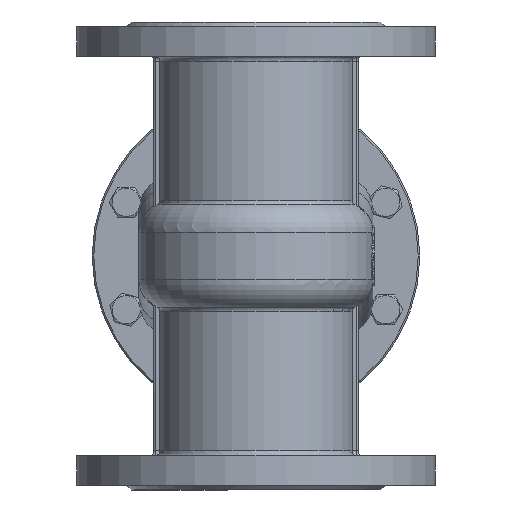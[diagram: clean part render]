
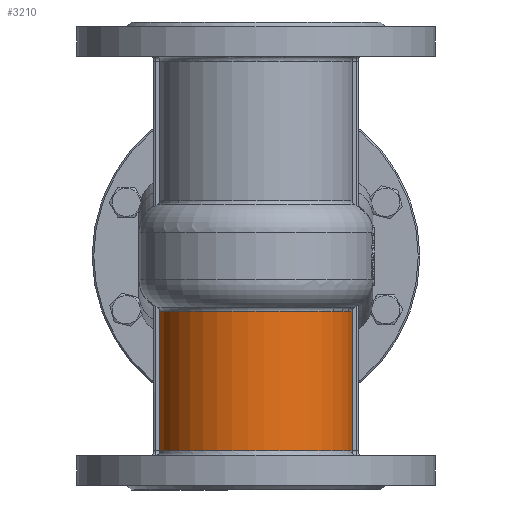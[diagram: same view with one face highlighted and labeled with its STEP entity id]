
A CAD part, front view. The second image highlights one B-rep face of the part: STEP entity #3210.
In plain terms, the highlighted cylindrical face has radius 62.5 mm (diameter 125 mm), a partial arc.
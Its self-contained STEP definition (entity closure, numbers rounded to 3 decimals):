
#3210=ADVANCED_FACE('',(#10904),#10906,.T.);
#10904=FACE_BOUND('',#10905,.T.);
#10905=EDGE_LOOP('',(#17736,#17737,#17738,#17739));
#10906=CYLINDRICAL_SURFACE('',#10907,62.5);
#10907=AXIS2_PLACEMENT_3D('',#10908,#10909,#10910);
#10908=CARTESIAN_POINT('',(0.,0.,-129.));
#10909=DIRECTION('',(0.,0.,1.));
#10910=DIRECTION('',(-0.987,-0.16,0.));
#17736=ORIENTED_EDGE('',*,*,#20984,.F.);
#17737=ORIENTED_EDGE('',*,*,#20762,.T.);
#17738=ORIENTED_EDGE('',*,*,#20758,.F.);
#17739=ORIENTED_EDGE('',*,*,#20777,.F.);
#20758=EDGE_CURVE('',#23394,#23396,#23397,.T.);
#20762=EDGE_CURVE('',#23400,#23396,#23403,.T.);
#20777=EDGE_CURVE('',#23426,#23394,#23428,.T.);
#20984=EDGE_CURVE('',#23400,#23426,#23759,.F.);
#23394=VERTEX_POINT('',#33201);
#23396=VERTEX_POINT('',#33277);
#23397=CIRCLE('',#33278,62.5);
#23400=VERTEX_POINT('',#33361);
#23403=LINE('',#33368,#33369);
#23426=VERTEX_POINT('',#33487);
#23428=LINE('',#33491,#33492);
#23759=CIRCLE('',#37240,62.5);
#33201=CARTESIAN_POINT('',(-61.695,-10.,-35.463));
#33277=CARTESIAN_POINT('',(61.695,-10.,-35.463));
#33278=AXIS2_PLACEMENT_3D('',#33279,#33280,#33281);
#33279=CARTESIAN_POINT('',(0.,0.,-35.463));
#33280=DIRECTION('',(0.,0.,1.));
#33281=DIRECTION('',(-0.987,-0.16,0.));
#33361=CARTESIAN_POINT('',(61.695,-10.,-125.));
#33368=CARTESIAN_POINT('',(61.695,-10.,-125.));
#33369=VECTOR('',#33370,1.);
#33370=DIRECTION('',(0.,0.,1.));
#33487=CARTESIAN_POINT('',(-61.695,-10.,-125.));
#33491=CARTESIAN_POINT('',(-61.695,-10.,-125.));
#33492=VECTOR('',#33493,1.);
#33493=DIRECTION('',(0.,0.,1.));
#37240=AXIS2_PLACEMENT_3D('',#37241,#37242,#37243);
#37241=CARTESIAN_POINT('',(0.,0.,-125.));
#37242=DIRECTION('',(0.,0.,1.));
#37243=DIRECTION('',(-0.987,-0.16,0.));
